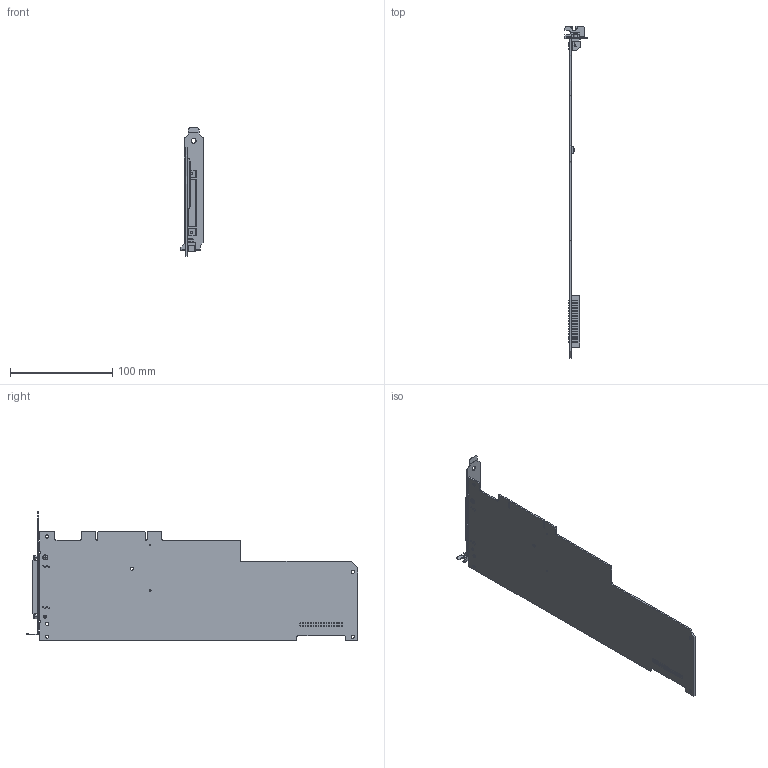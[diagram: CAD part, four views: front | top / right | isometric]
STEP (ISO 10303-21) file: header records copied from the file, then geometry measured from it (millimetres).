
FILE_DESCRIPTION((''),'2;1');
FILE_NAME('CU_PCI-61XX','2011-08-12T',('dkendric'),(''),'PRO/ENGINEER BY PARAMETRIC TECHNOLOGY CORPORATION, 2010230','PRO/ENGINEER BY PARAMETRIC TECHNOLOGY CORPORATION, 2010230','');
FILE_SCHEMA(('CONFIG_CONTROL_DESIGN'));
Length unit declared in the file: inch
Products named in the file (1): CU_PCI-61XX
Bounding box: 21.59 x 325.13 x 126.21 mm (x, y, z)
Volume: 53250.9 mm3; surface area: 69121.5 mm2
Topology: 1 solids, 1 shells, 910 faces, 2484 edges, 1640 vertices
Faces by surface type: plane 709, cylinder 187, cone 8, bspline 4, sphere 2
Entity records: 29062 total; most frequent: CARTESIAN_POINT 5372, ORIENTED_EDGE 4968, DIRECTION 4686, EDGE_CURVE 2484, VECTOR 2050, LINE 2050, VERTEX_POINT 1640, AXIS2_PLACEMENT_3D 1318
